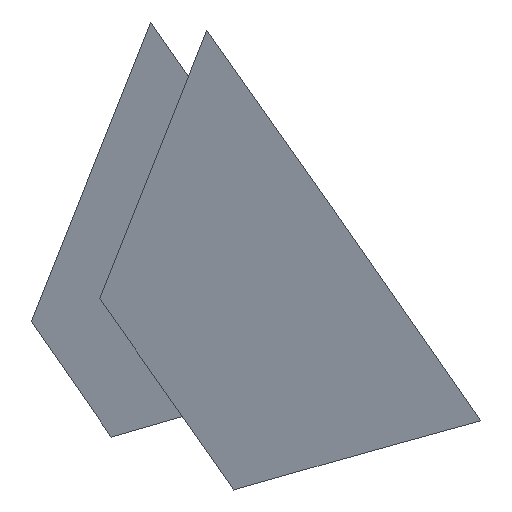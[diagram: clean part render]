
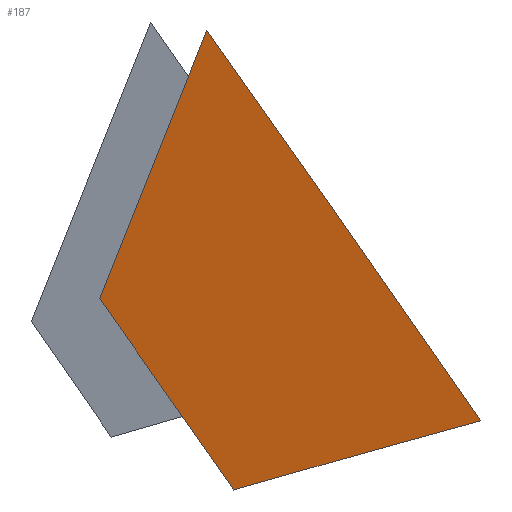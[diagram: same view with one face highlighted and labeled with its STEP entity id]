
A CAD part, left-side view. The second image highlights one B-rep face of the part: STEP entity #187.
In plain terms, the highlighted free-form (B-spline) face has degree [1, 1] with [2, 2] control points.
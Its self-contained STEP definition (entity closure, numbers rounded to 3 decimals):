
#187 = ADVANCED_FACE('',(#188),#201,.T.);
#188 = FACE_BOUND('',#189,.T.);
#189 = EDGE_LOOP('',(#190,#211,#225,#239,#253,#267,#281,#295));
#190 = ORIENTED_EDGE('',*,*,#191,.T.);
#191 = EDGE_CURVE('',#192,#194,#196,.T.);
#192 = VERTEX_POINT('',#193);
#193 = CARTESIAN_POINT('',(1303.497,-1825.038,
    1294.786));
#194 = VERTEX_POINT('',#195);
#195 = CARTESIAN_POINT('',(1305.888,-1826.992,
    1292.016));
#196 = SURFACE_CURVE('',#197,(#200),.PCURVE_S1.);
#197 = B_SPLINE_CURVE_WITH_KNOTS('',1,(#198,#199),.UNSPECIFIED.,.F.,.F.,
  (2,2),(0.,4.149),.PIECEWISE_BEZIER_KNOTS.);
#198 = CARTESIAN_POINT('',(1303.497,-1825.038,
    1294.786));
#199 = CARTESIAN_POINT('',(1305.888,-1826.992,
    1292.016));
#200 = PCURVE('',#201,#206);
#201 = B_SPLINE_SURFACE_WITH_KNOTS('',1,1,(
    (#202,#203)
    ,(#204,#205
    )),.UNSPECIFIED.,.F.,.F.,.F.,(2,2),(2,2),(-3.155,
    4.704),(-3.183,3.647),
  .PIECEWISE_BEZIER_KNOTS.);
#202 = CARTESIAN_POINT('',(1305.45,-1823.573,
    1286.989));
#203 = CARTESIAN_POINT('',(1308.74,-1829.311,
    1288.692));
#204 = CARTESIAN_POINT('',(1302.421,-1823.161,
    1294.229));
#205 = CARTESIAN_POINT('',(1305.711,-1828.899,
    1295.931));
#206 = DEFINITIONAL_REPRESENTATION('',(#207),#210);
#207 = B_SPLINE_CURVE_WITH_KNOTS('',1,(#208,#209),.UNSPECIFIED.,.F.,.F.,
  (2,2),(0.,4.149),.PIECEWISE_BEZIER_KNOTS.);
#208 = CARTESIAN_POINT('',(4.704,-0.949));
#209 = CARTESIAN_POINT('',(1.128,1.153));
#210 = ( GEOMETRIC_REPRESENTATION_CONTEXT(2) 
PARAMETRIC_REPRESENTATION_CONTEXT() REPRESENTATION_CONTEXT('2D SPACE',''
  ) );
#211 = ORIENTED_EDGE('',*,*,#212,.T.);
#212 = EDGE_CURVE('',#194,#213,#215,.T.);
#213 = VERTEX_POINT('',#214);
#214 = CARTESIAN_POINT('',(1308.74,-1829.311,
    1288.692));
#215 = SURFACE_CURVE('',#216,(#219),.PCURVE_S1.);
#216 = B_SPLINE_CURVE_WITH_KNOTS('',1,(#217,#218),.UNSPECIFIED.,.F.,.F.,
  (2,2),(0.,4.955),.PIECEWISE_BEZIER_KNOTS.);
#217 = CARTESIAN_POINT('',(1305.888,-1826.992,
    1292.016));
#218 = CARTESIAN_POINT('',(1308.74,-1829.311,
    1288.692));
#219 = PCURVE('',#201,#220);
#220 = DEFINITIONAL_REPRESENTATION('',(#221),#224);
#221 = B_SPLINE_CURVE_WITH_KNOTS('',1,(#222,#223),.UNSPECIFIED.,.F.,.F.,
  (2,2),(0.,4.955),.PIECEWISE_BEZIER_KNOTS.);
#222 = CARTESIAN_POINT('',(1.128,1.153));
#223 = CARTESIAN_POINT('',(-3.155,3.647));
#224 = ( GEOMETRIC_REPRESENTATION_CONTEXT(2) 
PARAMETRIC_REPRESENTATION_CONTEXT() REPRESENTATION_CONTEXT('2D SPACE',''
  ) );
#225 = ORIENTED_EDGE('',*,*,#226,.T.);
#226 = EDGE_CURVE('',#213,#227,#229,.T.);
#227 = VERTEX_POINT('',#228);
#228 = CARTESIAN_POINT('',(1307.96,-1827.968,
    1288.321));
#229 = SURFACE_CURVE('',#230,(#233),.PCURVE_S1.);
#230 = B_SPLINE_CURVE_WITH_KNOTS('',1,(#231,#232),.UNSPECIFIED.,.F.,.F.,
  (2,2),(0.,1.596),.PIECEWISE_BEZIER_KNOTS.);
#231 = CARTESIAN_POINT('',(1308.74,-1829.311,
    1288.692));
#232 = CARTESIAN_POINT('',(1307.96,-1827.968,
    1288.321));
#233 = PCURVE('',#201,#234);
#234 = DEFINITIONAL_REPRESENTATION('',(#235),#238);
#235 = B_SPLINE_CURVE_WITH_KNOTS('',1,(#236,#237),.UNSPECIFIED.,.F.,.F.,
  (2,2),(0.,1.596),.PIECEWISE_BEZIER_KNOTS.);
#236 = CARTESIAN_POINT('',(-3.155,3.647));
#237 = CARTESIAN_POINT('',(-3.126,2.051));
#238 = ( GEOMETRIC_REPRESENTATION_CONTEXT(2) 
PARAMETRIC_REPRESENTATION_CONTEXT() REPRESENTATION_CONTEXT('2D SPACE',''
  ) );
#239 = ORIENTED_EDGE('',*,*,#240,.T.);
#240 = EDGE_CURVE('',#227,#241,#243,.T.);
#241 = VERTEX_POINT('',#242);
#242 = CARTESIAN_POINT('',(1306.984,-1826.285,
    1287.851));
#243 = SURFACE_CURVE('',#244,(#247),.PCURVE_S1.);
#244 = B_SPLINE_CURVE_WITH_KNOTS('',1,(#245,#246),.UNSPECIFIED.,.F.,.F.,
  (2,2),(0.,2.002),.PIECEWISE_BEZIER_KNOTS.);
#245 = CARTESIAN_POINT('',(1307.96,-1827.968,
    1288.321));
#246 = CARTESIAN_POINT('',(1306.984,-1826.285,
    1287.851));
#247 = PCURVE('',#201,#248);
#248 = DEFINITIONAL_REPRESENTATION('',(#249),#252);
#249 = B_SPLINE_CURVE_WITH_KNOTS('',1,(#250,#251),.UNSPECIFIED.,.F.,.F.,
  (2,2),(0.,2.002),.PIECEWISE_BEZIER_KNOTS.);
#250 = CARTESIAN_POINT('',(-3.126,2.051));
#251 = CARTESIAN_POINT('',(-3.094,0.05));
#252 = ( GEOMETRIC_REPRESENTATION_CONTEXT(2) 
PARAMETRIC_REPRESENTATION_CONTEXT() REPRESENTATION_CONTEXT('2D SPACE',''
  ) );
#253 = ORIENTED_EDGE('',*,*,#254,.T.);
#254 = EDGE_CURVE('',#241,#255,#257,.T.);
#255 = VERTEX_POINT('',#256);
#256 = CARTESIAN_POINT('',(1306.506,-1825.457,
    1287.613));
#257 = SURFACE_CURVE('',#258,(#261),.PCURVE_S1.);
#258 = B_SPLINE_CURVE_WITH_KNOTS('',1,(#259,#260),.UNSPECIFIED.,.F.,.F.,
  (2,2),(0.,0.986),.PIECEWISE_BEZIER_KNOTS.);
#259 = CARTESIAN_POINT('',(1306.984,-1826.285,
    1287.851));
#260 = CARTESIAN_POINT('',(1306.506,-1825.457,
    1287.613));
#261 = PCURVE('',#201,#262);
#262 = DEFINITIONAL_REPRESENTATION('',(#263),#266);
#263 = B_SPLINE_CURVE_WITH_KNOTS('',1,(#264,#265),.UNSPECIFIED.,.F.,.F.,
  (2,2),(0.,0.986),.PIECEWISE_BEZIER_KNOTS.);
#264 = CARTESIAN_POINT('',(-3.094,0.05));
#265 = CARTESIAN_POINT('',(-3.085,-0.936));
#266 = ( GEOMETRIC_REPRESENTATION_CONTEXT(2) 
PARAMETRIC_REPRESENTATION_CONTEXT() REPRESENTATION_CONTEXT('2D SPACE',''
  ) );
#267 = ORIENTED_EDGE('',*,*,#268,.T.);
#268 = EDGE_CURVE('',#255,#269,#271,.T.);
#269 = VERTEX_POINT('',#270);
#270 = CARTESIAN_POINT('',(1305.02,-1824.249,
    1289.345));
#271 = SURFACE_CURVE('',#272,(#275),.PCURVE_S1.);
#272 = B_SPLINE_CURVE_WITH_KNOTS('',1,(#273,#274),.UNSPECIFIED.,.F.,.F.,
  (2,2),(0.,2.581),.PIECEWISE_BEZIER_KNOTS.);
#273 = CARTESIAN_POINT('',(1306.506,-1825.457,
    1287.613));
#274 = CARTESIAN_POINT('',(1305.02,-1824.249,
    1289.345));
#275 = PCURVE('',#201,#276);
#276 = DEFINITIONAL_REPRESENTATION('',(#277),#280);
#277 = B_SPLINE_CURVE_WITH_KNOTS('',1,(#278,#279),.UNSPECIFIED.,.F.,.F.,
  (2,2),(0.,2.581),.PIECEWISE_BEZIER_KNOTS.);
#278 = CARTESIAN_POINT('',(-3.085,-0.936));
#279 = CARTESIAN_POINT('',(-0.855,-2.235));
#280 = ( GEOMETRIC_REPRESENTATION_CONTEXT(2) 
PARAMETRIC_REPRESENTATION_CONTEXT() REPRESENTATION_CONTEXT('2D SPACE',''
  ) );
#281 = ORIENTED_EDGE('',*,*,#282,.T.);
#282 = EDGE_CURVE('',#269,#283,#285,.T.);
#283 = VERTEX_POINT('',#284);
#284 = CARTESIAN_POINT('',(1303.942,-1823.368,
    1290.594));
#285 = SURFACE_CURVE('',#286,(#289),.PCURVE_S1.);
#286 = B_SPLINE_CURVE_WITH_KNOTS('',1,(#287,#288),.UNSPECIFIED.,.F.,.F.,
  (2,2),(0.,1.871),.PIECEWISE_BEZIER_KNOTS.);
#287 = CARTESIAN_POINT('',(1305.02,-1824.249,
    1289.345));
#288 = CARTESIAN_POINT('',(1303.942,-1823.368,
    1290.594));
#289 = PCURVE('',#201,#290);
#290 = DEFINITIONAL_REPRESENTATION('',(#291),#294);
#291 = B_SPLINE_CURVE_WITH_KNOTS('',1,(#292,#293),.UNSPECIFIED.,.F.,.F.,
  (2,2),(0.,1.871),.PIECEWISE_BEZIER_KNOTS.);
#292 = CARTESIAN_POINT('',(-0.855,-2.235));
#293 = CARTESIAN_POINT('',(0.758,-3.183));
#294 = ( GEOMETRIC_REPRESENTATION_CONTEXT(2) 
PARAMETRIC_REPRESENTATION_CONTEXT() REPRESENTATION_CONTEXT('2D SPACE',''
  ) );
#295 = ORIENTED_EDGE('',*,*,#296,.T.);
#296 = EDGE_CURVE('',#283,#192,#297,.T.);
#297 = SURFACE_CURVE('',#298,(#301),.PCURVE_S1.);
#298 = B_SPLINE_CURVE_WITH_KNOTS('',1,(#299,#300),.UNSPECIFIED.,.F.,.F.,
  (2,2),(0.,4.534),.PIECEWISE_BEZIER_KNOTS.);
#299 = CARTESIAN_POINT('',(1303.942,-1823.368,
    1290.594));
#300 = CARTESIAN_POINT('',(1303.497,-1825.038,
    1294.786));
#301 = PCURVE('',#201,#302);
#302 = DEFINITIONAL_REPRESENTATION('',(#303),#306);
#303 = B_SPLINE_CURVE_WITH_KNOTS('',1,(#304,#305),.UNSPECIFIED.,.F.,.F.,
  (2,2),(0.,4.534),.PIECEWISE_BEZIER_KNOTS.);
#304 = CARTESIAN_POINT('',(0.758,-3.183));
#305 = CARTESIAN_POINT('',(4.704,-0.949));
#306 = ( GEOMETRIC_REPRESENTATION_CONTEXT(2) 
PARAMETRIC_REPRESENTATION_CONTEXT() REPRESENTATION_CONTEXT('2D SPACE',''
  ) );
